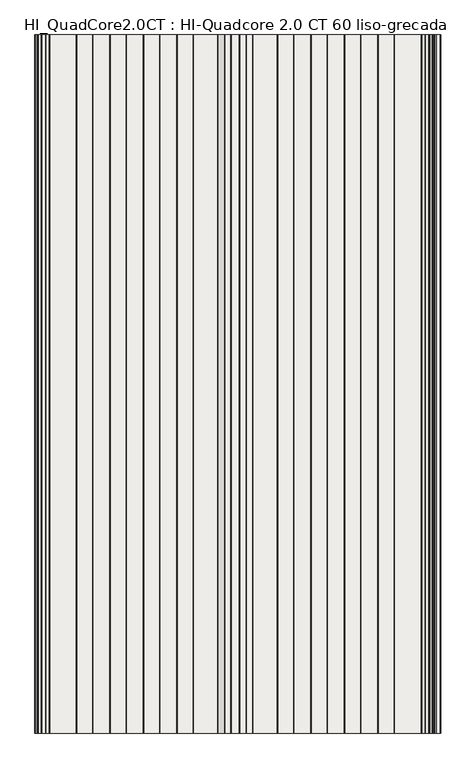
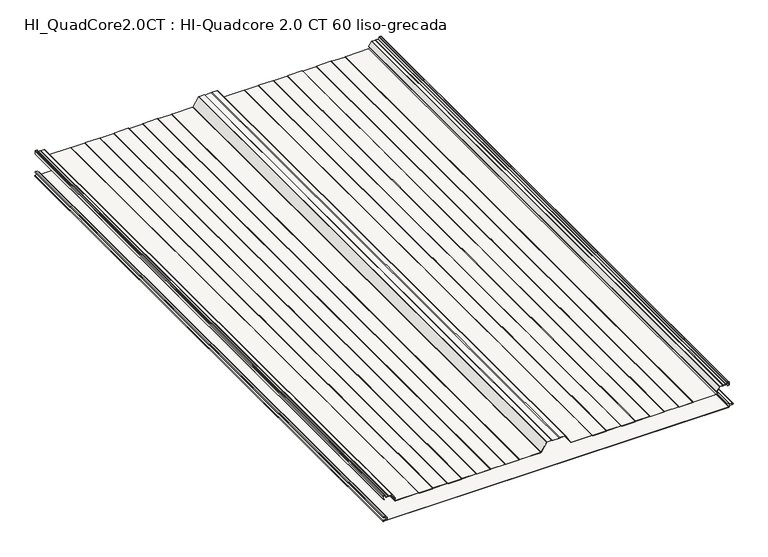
"""IFC4 building model written with IfcOpenShell, lengths in millimetres: slab geometry, HI_QuadCore2.0CT : HI-Quadcore 2.0 CT 60 liso-grecada."""

from ifc_helpers import new_model, si_unit, point, frame, frame_2d, origin, place, context, project, spatial, polyline, circle_curve, trimmed, segment, composite_curve, outline, extrude, source, transform, mapped, element, save
from ifc_brep_helpers import plane_surface, cylinder_surface, revolved_surface, advanced_brep


def hi_quadcore2_0ct_hi_quadcore_2_0_ct_60_liso_grecada_41cce4d6(model_context):
    return source(origin(), model_context, "Body", "SolidModel", [
        advanced_brep(
        [(1153.6125412, 0.0, 16.239302), (1151.6320413, 0.0, 14.2588021), (1153.3026044, 0.0, 12.2960661), (1161.7027672, 0.0, 10.9645747), (1161.6806488, 0.0, 5.2720118), (1151.7277556, 0.0, 3.7755366), (1152.0100062, 0.0, 0.0), (2297.9590685, 0.0, 0.0), (2300.1391392, 0.0, 2.1800708), (2302.6636211, 0.0, 5.0353254), (2310.9083654, 0.0, 6.0356531), (2310.9083654, 0.0, 10.2043469), (2300.9419234, 0.0, 11.413338), (2298.6324398, 0.0, 14.0237344), (2297.5187526, 0.0, 16.24), (2292.7624398, 0.0, 16.24), (2292.7624398, 0.0, 15.44), (2297.2282701, 0.0, 15.44), (2297.8324398, 0.0, 14.0237344), (2300.8450446, 0.0, 10.6192254), (2310.7843299, 0.0, 9.4135286), (2310.7843221, 0.0, 6.8264698), (2302.5664905, 0.0, 5.8294074), (2299.3391392, 0.0, 2.1800708), (2297.9590685, 0.0, 0.8), (1152.0100062, 0.0, 0.8), (1151.8467032, 0.0, 2.9844289), (1161.7995989, 0.0, 4.4809044), (1161.8278581, 0.0, 11.7547343), (1153.4279307, 0.0, 13.084535), (1152.4319301, 0.0, 14.2584682), (1153.6125693, 0.0, 15.4391074), (1157.510215, 0.0, 15.4391074), (1157.510215, 0.0, 16.239302), (1153.6125412, 2000.0, 16.239302), (1157.510215, 2000.0, 16.239302), (1157.510215, 2000.0, 15.4391074), (1153.6125693, 2000.0, 15.4391074), (1152.4319301, 2000.0, 14.2584682), (1153.4276302, 2000.0, 13.0866965), (1161.8278581, 2000.0, 11.7547343), (1161.7995989, 2000.0, 4.4809044), (1151.8467032, 2000.0, 2.9844289), (1152.0100062, 2000.0, 0.8), (2297.9590685, 2000.0, 0.8), (2299.3391392, 2000.0, 2.1800708), (2302.5664905, 2000.0, 5.8294074), (2310.7843221, 2000.0, 6.8264698), (2310.7843299, 2000.0, 9.4135286), (2300.8450446, 2000.0, 10.6192254), (2297.8324398, 2000.0, 14.0237344), (2297.2282701, 2000.0, 15.44), (2292.7624398, 2000.0, 15.44), (2292.7624398, 2000.0, 16.24), (2297.5187526, 2000.0, 16.24), (2298.6324398, 2000.0, 14.0237344), (2300.9419234, 2000.0, 11.413338), (2310.9083654, 2000.0, 10.2043469), (2310.9083654, 2000.0, 6.0356531), (2302.6636211, 2000.0, 5.0353254), (2300.1391392, 2000.0, 2.1800708), (2297.9590685, 2000.0, 0.0), (1152.0100062, 2000.0, 0.0), (1151.7277556, 2000.0, 3.7755366), (1161.6806488, 2000.0, 5.2720118), (1161.7027672, 2000.0, 10.9645747), (1153.3028397, 2000.0, 12.2943753), (1151.6320413, 2000.0, 14.2588021)],
        [
            (0, 1, circle_curve(frame((1153.6125412, 0.0, 14.2588021), z_axis=(0.0, -1.0, 0.0), x_axis=(1.0, 0.0, 0.0)), 1.9804999)),
            (1, 2, circle_curve(frame((1153.612237, 0.0, 14.2519163), z_axis=(0.0, -1.0, 0.0), x_axis=(1.0, 0.0, 0.0)), 1.9802076)),
            (2, 3),
            (3, 4, circle_curve(frame((1161.2524398, 0.0, 8.12), z_axis=(0.0, 1.0, 0.0), x_axis=(1.0, 0.0, 0.0)), 2.88)),
            (4, 5),
            (5, 6, circle_curve(frame((1152.0100062, 0.0, 1.8983185), z_axis=(0.0, -1.0, 0.0), x_axis=(1.0, 0.0, 0.0)), 1.8983185)),
            (6, 7),
            (7, 8, circle_curve(frame((2297.9590685, 0.0, 2.1800708), z_axis=(0.0, -1.0, 0.0), x_axis=(1.0, 0.0, 0.0)), 2.1800708)),
            (8, 9, circle_curve(frame((2303.0160638, 0.0, 2.1800708), z_axis=(0.0, 1.0, 0.0), x_axis=(1.0, 0.0, 0.0)), 2.8769246)),
            (9, 10),
            (10, 11, circle_curve(frame((2310.5224398, 0.0, 8.12), z_axis=(0.0, -1.0, 0.0), x_axis=(1.0, 0.0, 0.0)), 2.1197737)),
            (11, 12),
            (12, 13, circle_curve(frame((2301.2624398, 0.0, 14.0237344), z_axis=(0.0, 1.0, 0.0), x_axis=(1.0, 0.0, 0.0)), 2.63)),
            (13, 14, circle_curve(frame((2295.8703839, 0.0, 14.0237344), z_axis=(0.0, -1.0, 0.0), x_axis=(1.0, 0.0, 0.0)), 2.7620559)),
            (14, 15),
            (15, 16),
            (16, 17),
            (17, 18, circle_curve(frame((2295.8703839, 0.0, 14.0237344), z_axis=(0.0, 1.0, 0.0), x_axis=(1.0, 0.0, 0.0)), 1.9620559)),
            (18, 19, circle_curve(frame((2301.2624398, 0.0, 14.0237344), z_axis=(0.0, -1.0, 0.0), x_axis=(1.0, 0.0, 0.0)), 3.43)),
            (19, 20),
            (20, 21, circle_curve(frame((2310.5224398, 0.0, 8.12), z_axis=(0.0, 1.0, 0.0), x_axis=(1.0, 0.0, 0.0)), 1.3197737)),
            (21, 22),
            (22, 23, circle_curve(frame((2303.0160638, 0.0, 2.1800708), z_axis=(0.0, -1.0, 0.0), x_axis=(1.0, 0.0, 0.0)), 3.6769246)),
            (23, 24, circle_curve(frame((2297.9590685, 0.0, 2.1800708), z_axis=(0.0, 1.0, 0.0), x_axis=(1.0, 0.0, 0.0)), 1.3800708)),
            (24, 25),
            (25, 26, circle_curve(frame((1152.0100062, 0.0, 1.8983185), z_axis=(0.0, 1.0, 0.0), x_axis=(1.0, 0.0, 0.0)), 1.0983185)),
            (26, 27),
            (27, 28, circle_curve(frame((1161.2524398, 0.0, 8.12), z_axis=(0.0, -1.0, 0.0), x_axis=(1.0, 0.0, 0.0)), 3.68)),
            (28, 29),
            (29, 30, circle_curve(frame((1153.6121809, 0.0, 14.2524448), z_axis=(0.0, 1.0, 0.0), x_axis=(1.0, 0.0, 0.0)), 1.1802661)),
            (30, 31, circle_curve(frame((1153.6125693, 0.0, 14.2584682), z_axis=(0.0, 1.0, 0.0), x_axis=(1.0, 0.0, 0.0)), 1.1806391)),
            (31, 32),
            (32, 33),
            (33, 0),
            (34, 35),
            (35, 36),
            (36, 37),
            (37, 38, circle_curve(frame((1153.6125693, 2000.0, 14.2584682), z_axis=(0.0, -1.0, 0.0), x_axis=(1.0, 0.0, 0.0)), 1.1806391)),
            (38, 39, circle_curve(frame((1153.6121809, 2000.0, 14.2524448), z_axis=(0.0, -1.0, 0.0), x_axis=(1.0, 0.0, 0.0)), 1.1802661)),
            (39, 40),
            (40, 41, circle_curve(frame((1161.2524398, 2000.0, 8.12), z_axis=(0.0, 1.0, 0.0), x_axis=(1.0, 0.0, 0.0)), 3.68)),
            (41, 42),
            (42, 43, circle_curve(frame((1152.0100062, 2000.0, 1.8983185), z_axis=(0.0, -1.0, 0.0), x_axis=(1.0, 0.0, 0.0)), 1.0983185)),
            (43, 44),
            (44, 45, circle_curve(frame((2297.9590685, 2000.0, 2.1800708), z_axis=(0.0, -1.0, 0.0), x_axis=(1.0, 0.0, 0.0)), 1.3800708)),
            (45, 46, circle_curve(frame((2303.0160638, 2000.0, 2.1800708), z_axis=(0.0, 1.0, 0.0), x_axis=(1.0, 0.0, 0.0)), 3.6769246)),
            (46, 47),
            (47, 48, circle_curve(frame((2310.5224398, 2000.0, 8.12), z_axis=(0.0, -1.0, 0.0), x_axis=(1.0, 0.0, 0.0)), 1.3197737)),
            (48, 49),
            (49, 50, circle_curve(frame((2301.2624398, 2000.0, 14.0237344), z_axis=(0.0, 1.0, 0.0), x_axis=(1.0, 0.0, 0.0)), 3.43)),
            (50, 51, circle_curve(frame((2295.8703839, 2000.0, 14.0237344), z_axis=(0.0, -1.0, 0.0), x_axis=(1.0, 0.0, 0.0)), 1.9620559)),
            (51, 52),
            (52, 53),
            (53, 54),
            (54, 55, circle_curve(frame((2295.8703839, 2000.0, 14.0237344), z_axis=(0.0, 1.0, 0.0), x_axis=(1.0, 0.0, 0.0)), 2.7620559)),
            (55, 56, circle_curve(frame((2301.2624398, 2000.0, 14.0237344), z_axis=(0.0, -1.0, 0.0), x_axis=(1.0, 0.0, 0.0)), 2.63)),
            (56, 57),
            (57, 58, circle_curve(frame((2310.5224398, 2000.0, 8.12), z_axis=(0.0, 1.0, 0.0), x_axis=(1.0, 0.0, 0.0)), 2.1197737)),
            (58, 59),
            (59, 60, circle_curve(frame((2303.0160638, 2000.0, 2.1800708), z_axis=(0.0, -1.0, 0.0), x_axis=(1.0, 0.0, 0.0)), 2.8769246)),
            (60, 61, circle_curve(frame((2297.9590685, 2000.0, 2.1800708), z_axis=(0.0, 1.0, 0.0), x_axis=(1.0, 0.0, 0.0)), 2.1800708)),
            (61, 62),
            (62, 63, circle_curve(frame((1152.0100062, 2000.0, 1.8983185), z_axis=(0.0, 1.0, 0.0), x_axis=(1.0, 0.0, 0.0)), 1.8983185)),
            (63, 64),
            (64, 65, circle_curve(frame((1161.2524398, 2000.0, 8.12), z_axis=(0.0, -1.0, 0.0), x_axis=(1.0, 0.0, 0.0)), 2.88)),
            (65, 66),
            (66, 67, circle_curve(frame((1153.612237, 2000.0, 14.2519163), z_axis=(0.0, 1.0, 0.0), x_axis=(1.0, 0.0, 0.0)), 1.9802076)),
            (67, 34, circle_curve(frame((1153.6125412, 2000.0, 14.2588021), z_axis=(0.0, 1.0, 0.0), x_axis=(1.0, 0.0, 0.0)), 1.9804999)),
            (0, 34),
            (67, 1),
            (66, 2),
            (65, 3),
            (64, 4),
            (63, 5),
            (62, 6),
            (61, 7),
            (60, 8),
            (59, 9),
            (58, 10),
            (57, 11),
            (56, 12),
            (55, 13),
            (54, 14),
            (53, 15),
            (52, 16),
            (51, 17),
            (50, 18),
            (49, 19),
            (48, 20),
            (47, 21),
            (46, 22),
            (45, 23),
            (44, 24),
            (43, 25),
            (42, 26),
            (41, 27),
            (40, 28),
            (39, 29),
            (38, 30),
            (37, 31),
            (36, 32),
            (35, 33),
        ],
        [
            plane_surface(frame((1155.5930411, 0.0, 14.2588021), z_axis=(0.0, -1.0, 0.0), x_axis=(0.0, 0.0, 1.0))),
            plane_surface(frame((1155.5930411, 2000.0, 14.2588021), z_axis=(0.0, 1.0, 0.0), x_axis=(0.0, 0.0, -1.0))),
            cylinder_surface(frame((1153.6125412, 2000.0, 14.2588021), z_axis=(0.0, -1.0, 0.0), x_axis=(1.0, 0.0, 0.0)), 1.9804999),
            cylinder_surface(frame((1153.612237, 2000.0, 14.2519163), z_axis=(0.0, -1.0, 0.0), x_axis=(1.0, 0.0, 0.0)), 1.9802076),
            plane_surface(frame((1153.3028397, 0.0, 12.2943753), z_axis=(-0.15636367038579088, 0.0, -0.9876995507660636), x_axis=(0.0, 1.0, 0.0))),
            revolved_surface(polyline([(1164.1324398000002, 2000.0, 8.12), (1164.1324398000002, 0.0, 8.12)]), (1161.2524398, 2000.0, 8.12), (0.0, 1.0, 0.0)),
            plane_surface(frame((1161.6806488, 0.0, 5.2720118), z_axis=(-0.14868453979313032, 0.0, 0.9888846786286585), x_axis=(0.0, 1.0, 0.0))),
            cylinder_surface(frame((1152.0100062, 2000.0, 1.8983185), z_axis=(0.0, -1.0, 0.0), x_axis=(1.0, 0.0, 0.0)), 1.8983185),
            plane_surface(frame((1152.0100062, 0.0, 0.0), z_axis=(0.0, 0.0, -1.0), x_axis=(0.0, 1.0, 0.0))),
            cylinder_surface(frame((2297.9590685, 2000.0, 2.1800708), z_axis=(0.0, -1.0, 0.0), x_axis=(1.0, 0.0, 0.0)), 2.1800708),
            revolved_surface(polyline([(2305.8929884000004, 2000.0, 2.1800708), (2305.8929884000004, 0.0, 2.1800708)]), (2303.0160638, 2000.0, 2.1800708), (0.0, 1.0, 0.0)),
            plane_surface(frame((2302.6636211, 0.0, 5.0353254), z_axis=(0.12044584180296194, 0.0, -0.9927198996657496), x_axis=(0.0, 1.0, 0.0))),
            cylinder_surface(frame((2310.5224398, 2000.0, 8.12), z_axis=(0.0, -1.0, 0.0), x_axis=(1.0, 0.0, 0.0)), 2.1197737),
            plane_surface(frame((2310.9083654, 0.0, 10.2043469), z_axis=(0.12042339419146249, 0.0, 0.9927226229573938), x_axis=(0.0, 1.0, 0.0))),
            revolved_surface(polyline([(2303.8924398, 2000.0, 14.0237344), (2303.8924398, 0.0, 14.0237344)]), (2301.2624398, 2000.0, 14.0237344), (0.0, 1.0, 0.0)),
            cylinder_surface(frame((2295.8703839, 2000.0, 14.0237344), z_axis=(0.0, -1.0, 0.0), x_axis=(1.0, 0.0, 0.0)), 2.7620559),
            plane_surface(frame((2297.5187526, 0.0, 16.24), z_axis=(0.0, 0.0, 1.0), x_axis=(0.0, 1.0, 0.0))),
            plane_surface(frame((2292.7624398, 0.0, 16.24), z_axis=(-1.0, 0.0, 0.0), x_axis=(0.0, 1.0, 0.0))),
            plane_surface(frame((2292.7624398, 0.0, 15.44), z_axis=(0.0, 0.0, -1.0), x_axis=(0.0, 1.0, 0.0))),
            revolved_surface(polyline([(2297.8324398, 2000.0, 14.0237344), (2297.8324398, 0.0, 14.0237344)]), (2295.8703839, 2000.0, 14.0237344), (0.0, 1.0, 0.0)),
            cylinder_surface(frame((2301.2624398, 2000.0, 14.0237344), z_axis=(0.0, -1.0, 0.0), x_axis=(1.0, 0.0, 0.0)), 3.43),
            plane_surface(frame((2300.8450446, 0.0, 10.6192254), z_axis=(-0.12042339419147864, 0.0, -0.9927226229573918), x_axis=(0.0, 1.0, 0.0))),
            revolved_surface(polyline([(2311.8422135, 2000.0, 8.12), (2311.8422135, 0.0, 8.12)]), (2310.5224398, 2000.0, 8.12), (0.0, 1.0, 0.0)),
            plane_surface(frame((2310.7843221, 0.0, 6.8264698), z_axis=(-0.12044584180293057, 0.0, 0.9927198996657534), x_axis=(0.0, 1.0, 0.0))),
            cylinder_surface(frame((2303.0160638, 2000.0, 2.1800708), z_axis=(0.0, -1.0, 0.0), x_axis=(1.0, 0.0, 0.0)), 3.6769246),
            revolved_surface(polyline([(2299.3391392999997, 2000.0, 2.1800708), (2299.3391392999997, 0.0, 2.1800708)]), (2297.9590685, 2000.0, 2.1800708), (0.0, 1.0, 0.0)),
            plane_surface(frame((2297.9590685, 0.0, 0.8), z_axis=(0.0, 0.0, 1.0), x_axis=(0.0, 1.0, 0.0))),
            revolved_surface(polyline([(1153.1083247, 2000.0, 1.8983185), (1153.1083247, 0.0, 1.8983185)]), (1152.0100062, 2000.0, 1.8983185), (0.0, 1.0, 0.0)),
            plane_surface(frame((1151.8467032, 0.0, 2.9844289), z_axis=(0.14868453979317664, 0.0, -0.9888846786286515), x_axis=(0.0, 1.0, 0.0))),
            cylinder_surface(frame((1161.2524398, 2000.0, 8.12), z_axis=(0.0, -1.0, 0.0), x_axis=(1.0, 0.0, 0.0)), 3.68),
            plane_surface(frame((1161.8278581, 0.0, 11.7547343), z_axis=(0.15636367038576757, 0.0, 0.9876995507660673), x_axis=(0.0, 1.0, 0.0))),
            revolved_surface(polyline([(1154.792447, 2000.0, 14.2524448), (1154.792447, 0.0, 14.2524448)]), (1153.6121809, 2000.0, 14.2524448), (0.0, 1.0, 0.0)),
            revolved_surface(polyline([(1154.7932084, 2000.0, 14.2584682), (1154.7932084, 0.0, 14.2584682)]), (1153.6125693, 2000.0, 14.2584682), (0.0, 1.0, 0.0)),
            plane_surface(frame((1153.6125693, 0.0, 15.4391074), z_axis=(0.0, 0.0, -1.0), x_axis=(0.0, 1.0, 0.0))),
            plane_surface(frame((1157.510215, 0.0, 15.4391074), z_axis=(1.0, 0.0, 0.0), x_axis=(0.0, 1.0, 0.0))),
            plane_surface(frame((1157.510215, 0.0, 16.239302), z_axis=(0.0, 0.0, 1.0), x_axis=(0.0, 1.0, 0.0))),
        ],
        [
            (0, [[1, 2, 3, 4, 5, 6, 7, 8, 9, 10, 11, 12, 13, 14, 15, 16, 17, 18, 19, 20, 21, 22, 23, 24, 25, 26, 27, 28, 29, 30, 31, 32, 33, 34]]),
            (1, [[35, 36, 37, 38, 39, 40, 41, 42, 43, 44, 45, 46, 47, 48, 49, 50, 51, 52, 53, 54, 55, 56, 57, 58, 59, 60, 61, 62, 63, 64, 65, 66, 67, 68]]),
            (2, [[-1, 69, -68, 70]]),
            (3, [[-2, -70, -67, 71]]),
            (4, [[-3, -71, -66, 72]]),
            (5, [[-4, -72, -65, 73]]),
            (6, [[-5, -73, -64, 74]]),
            (7, [[-6, -74, -63, 75]]),
            (8, [[-7, -75, -62, 76]]),
            (9, [[-8, -76, -61, 77]]),
            (10, [[-9, -77, -60, 78]]),
            (11, [[-10, -78, -59, 79]]),
            (12, [[-11, -79, -58, 80]]),
            (13, [[-12, -80, -57, 81]]),
            (14, [[-13, -81, -56, 82]]),
            (15, [[-14, -82, -55, 83]]),
            (16, [[-15, -83, -54, 84]]),
            (17, [[-16, -84, -53, 85]]),
            (18, [[-17, -85, -52, 86]]),
            (19, [[-18, -86, -51, 87]]),
            (20, [[-19, -87, -50, 88]]),
            (21, [[-20, -88, -49, 89]]),
            (22, [[-21, -89, -48, 90]]),
            (23, [[-22, -90, -47, 91]]),
            (24, [[-23, -91, -46, 92]]),
            (25, [[-24, -92, -45, 93]]),
            (26, [[-25, -93, -44, 94]]),
            (27, [[-26, -94, -43, 95]]),
            (28, [[-27, -95, -42, 96]]),
            (29, [[-28, -96, -41, 97]]),
            (30, [[-29, -97, -40, 98]]),
            (31, [[-30, -98, -39, 99]]),
            (32, [[-31, -99, -38, 100]]),
            (33, [[-32, -100, -37, 101]]),
            (34, [[-33, -101, -36, 102]]),
            (35, [[-34, -102, -35, -69]]),
        ],
    ),
        extrude(outline(composite_curve([segment(polyline([(77.9163804, 1151.3824194), (75.7425833, 1155.1475465), (76.4354036, 1155.5475465), (78.6669358, 1151.6824194), (88.1, 1151.6824194)]), True, "CONTINUOUS"), segment(trimmed(circle_curve(frame_2d((88.1, 1152.7824194)), 1.1), [point((88.1, 1151.6824194))], [point((89.2, 1152.7824194))], True, "CARTESIAN"), True, "CONTINUOUS"), segment(polyline([(89.2, 1152.7824194), (89.2, 1156.3760168)]), True, "CONTINUOUS"), segment(trimmed(circle_curve(frame_2d((88.1, 1156.3760168)), 1.1), [point((89.2, 1156.3760168))], [point((88.5209518, 1157.3922843))], True, "CARTESIAN"), True, "CONTINUOUS"), segment(polyline([(88.5209518, 1157.3922843), (84.0383476, 1159.2490397)]), True, "CONTINUOUS"), segment(trimmed(circle_curve(frame_2d((84.93, 1161.4016791)), 2.33), [point((84.0383476, 1159.2490397))], [point((82.6, 1161.4016791))], False, "CARTESIAN"), True, "CONTINUOUS"), segment(polyline([(82.6, 1161.4016791), (82.6, 1168.1276514), (81.8110374, 1169.8324194), (82.6, 1171.5371875), (82.6, 1180.8643848)]), True, "CONTINUOUS"), segment(trimmed(circle_curve(frame_2d((81.5, 1180.8643848)), 1.1), [point((82.6, 1180.8643848))], [point((82.1230469, 1181.7709236))], True, "CARTESIAN"), True, "CONTINUOUS"), segment(polyline([(82.1230469, 1181.7709236), (68.5361221, 1191.1089583)]), True, "CONTINUOUS"), segment(trimmed(circle_curve(frame_2d((67.9130752, 1190.2024195)), 1.1), [point((68.5361221, 1191.1089583))], [point((67.0692788, 1190.9081159))], True, "CARTESIAN"), True, "CONTINUOUS"), segment(polyline([(67.0692788, 1190.9081159), (66.2744555, 1189.9577511)]), True, "CONTINUOUS"), segment(trimmed(circle_curve(frame_2d((63.3, 1192.7795617)), 4.1), [point((66.2744555, 1189.9577511))], [point((59.2, 1192.7795617))], False, "CARTESIAN"), True, "CONTINUOUS"), segment(polyline([(59.2, 1192.7795617), (59.2, 1268.8832267), (58.2, 1270.6152775), (58.2, 1315.6495614), (59.2, 1317.3816122), (59.2, 1364.8832267), (58.2, 1366.6152775), (58.2, 1411.6495614), (59.2, 1413.3816122), (59.2, 1460.8832267), (58.2, 1462.6152775), (58.2, 1507.6495614), (59.2, 1509.3816122), (59.2, 1556.8832267), (58.2, 1558.6152775), (58.2, 1603.6495614), (59.2, 1605.3816122), (59.2, 1674.3619266)]), True, "CONTINUOUS"), segment(trimmed(circle_curve(frame_2d((61.53, 1674.3619266)), 2.33), [point((59.2, 1674.3619266))], [point((60.2833287, 1676.330355))], False, "CARTESIAN"), True, "CONTINUOUS"), segment(polyline([(60.2833287, 1676.330355), (88.6885573, 1694.3203331)]), True, "CONTINUOUS"), segment(trimmed(circle_curve(frame_2d((88.1, 1695.2496341)), 1.1), [point((88.6885573, 1694.3203331))], [point((89.2, 1695.2496341))], True, "CARTESIAN"), True, "CONTINUOUS"), segment(polyline([(89.2, 1695.2496341), (89.2, 1711.3832267), (87.7, 1713.9813029), (87.7, 1736.283536), (89.2, 1738.8816122), (89.2, 1755.0152048)]), True, "CONTINUOUS"), segment(trimmed(circle_curve(frame_2d((88.1, 1755.0152048)), 1.1), [point((89.2, 1755.0152048))], [point((88.6885573, 1755.9445057))], True, "CARTESIAN"), True, "CONTINUOUS"), segment(polyline([(88.6885573, 1755.9445057), (60.2833287, 1773.9344839)]), True, "CONTINUOUS"), segment(trimmed(circle_curve(frame_2d((61.53, 1775.9029123)), 2.33), [point((60.2833287, 1773.9344839))], [point((59.2, 1775.9029123))], False, "CARTESIAN"), True, "CONTINUOUS"), segment(polyline([(59.2, 1775.9029123), (59.2, 1844.8832267), (58.2, 1846.6152775), (58.2, 1891.6495614), (59.2, 1893.3816122), (59.2, 1940.8832267), (58.2, 1942.6152775), (58.2, 1987.6495614), (59.2, 1989.3816122), (59.2, 2036.8832267), (58.2, 2038.6152775), (58.2, 2083.6495614), (59.2, 2085.3816122), (59.2, 2132.8832267), (58.2, 2134.6152775), (58.2, 2179.6495614), (59.2, 2181.3816122), (59.2, 2257.4852773)]), True, "CONTINUOUS"), segment(trimmed(circle_curve(frame_2d((63.3, 2257.4852773)), 4.1), [point((59.2, 2257.4852773))], [point((66.2744554, 2260.3070878))], False, "CARTESIAN"), True, "CONTINUOUS"), segment(polyline([(66.2744554, 2260.3070878), (67.0692788, 2259.356723)]), True, "CONTINUOUS"), segment(trimmed(circle_curve(frame_2d((67.9130753, 2260.0624194)), 1.1), [point((67.0692788, 2259.356723))], [point((68.5361221, 2259.1558806))], True, "CARTESIAN"), True, "CONTINUOUS"), segment(polyline([(68.5361221, 2259.1558806), (82.1230469, 2268.4939153)]), True, "CONTINUOUS"), segment(trimmed(circle_curve(frame_2d((81.5, 2269.4004541)), 1.1), [point((82.1230469, 2268.4939153))], [point((82.6, 2269.4004541))], True, "CARTESIAN"), True, "CONTINUOUS"), segment(polyline([(82.6, 2269.4004541), (82.6, 2278.7276514), (81.8110374, 2280.4324194), (82.6, 2282.1371875), (82.6, 2288.8631598)]), True, "CONTINUOUS"), segment(trimmed(circle_curve(frame_2d((84.93, 2288.8631598)), 2.33), [point((82.6, 2288.8631598))], [point((84.0383476, 2291.0157992))], False, "CARTESIAN"), True, "CONTINUOUS"), segment(polyline([(84.0383476, 2291.0157992), (88.5209518, 2292.8725546)]), True, "CONTINUOUS"), segment(trimmed(circle_curve(frame_2d((88.1, 2293.8888221)), 1.1), [point((88.5209518, 2292.8725546))], [point((89.2, 2293.8888221))], True, "CARTESIAN"), True, "CONTINUOUS"), segment(polyline([(89.2, 2293.8888221), (89.2, 2297.4824194)]), True, "CONTINUOUS"), segment(trimmed(circle_curve(frame_2d((88.1, 2297.4824194)), 1.1), [point((89.2, 2297.4824194))], [point((88.1, 2298.5824194))], True, "CARTESIAN"), True, "CONTINUOUS"), segment(polyline([(88.1, 2298.5824194), (78.6669358, 2298.5824194), (76.4354036, 2294.7172924), (75.7425833, 2295.1172924), (77.9163804, 2298.8824194)]), True, "CONTINUOUS"), segment(trimmed(circle_curve(frame_2d((78.7824058, 2298.3824194)), 1.0), [point((77.9163804, 2298.8824194))], [point((78.7824058, 2299.3824194))], False, "CARTESIAN"), True, "CONTINUOUS"), segment(polyline([(78.7824058, 2299.3824194), (88.1, 2299.3824194)]), True, "CONTINUOUS"), segment(trimmed(circle_curve(frame_2d((88.1, 2297.4824194)), 1.9), [point((88.1, 2299.3824194))], [point((90.0, 2297.4824194))], False, "CARTESIAN"), True, "CONTINUOUS"), segment(polyline([(90.0, 2297.4824194), (90.0, 2293.8888221)]), True, "CONTINUOUS"), segment(trimmed(circle_curve(frame_2d((88.1, 2293.8888221)), 1.9), [point((90.0, 2293.8888221))], [point((88.8270985, 2292.133451))], False, "CARTESIAN"), True, "CONTINUOUS"), segment(polyline([(88.8270985, 2292.133451), (84.3444944, 2290.2766955)]), True, "CONTINUOUS"), segment(trimmed(circle_curve(frame_2d((84.93, 2288.8631598)), 1.53), [point((84.3444944, 2290.2766955))], [point((83.4, 2288.8631598))], True, "CARTESIAN"), True, "CONTINUOUS"), segment(polyline([(83.4, 2288.8631598), (83.4, 2281.9610429), (82.6925567, 2280.4324194), (83.4, 2278.903796), (83.4, 2269.4004541)]), True, "CONTINUOUS"), segment(trimmed(circle_curve(frame_2d((81.5, 2269.4004541)), 1.9), [point((83.4, 2269.4004541))], [point((82.5761719, 2267.8346144))], False, "CARTESIAN"), True, "CONTINUOUS"), segment(polyline([(82.5761719, 2267.8346144), (68.9892471, 2258.4965797)]), True, "CONTINUOUS"), segment(trimmed(circle_curve(frame_2d((67.9130753, 2260.0624194)), 1.9), [point((68.9892471, 2258.4965797))], [point((66.4556086, 2258.8434892))], False, "CARTESIAN"), True, "CONTINUOUS"), segment(polyline([(66.4556086, 2258.8434892), (65.6777166, 2259.7736094)]), True, "CONTINUOUS"), segment(trimmed(circle_curve(frame_2d((63.3, 2257.4852773)), 3.3), [point((65.6777166, 2259.7736094))], [point((60.0, 2257.4852773))], True, "CARTESIAN"), True, "CONTINUOUS"), segment(polyline([(60.0, 2257.4852773), (60.0, 2181.5691766)]), True, "CONTINUOUS"), segment(trimmed(circle_curve(frame_2d((58.5, 2181.5691766)), 1.5), [point((60.0, 2181.5691766))], [point((59.7990381, 2180.8191766))], False, "CARTESIAN"), True, "CONTINUOUS"), segment(polyline([(59.7990381, 2180.8191766), (59.0, 2179.435202), (59.0, 2134.8296369), (59.7990381, 2133.4456623)]), True, "CONTINUOUS"), segment(trimmed(circle_curve(frame_2d((58.5, 2132.6956623)), 1.5), [point((59.7990381, 2133.4456623))], [point((60.0, 2132.6956623))], False, "CARTESIAN"), True, "CONTINUOUS"), segment(polyline([(60.0, 2132.6956623), (60.0, 2085.5691766)]), True, "CONTINUOUS"), segment(trimmed(circle_curve(frame_2d((58.5, 2085.5691766)), 1.5), [point((60.0, 2085.5691766))], [point((59.7990381, 2084.8191766))], False, "CARTESIAN"), True, "CONTINUOUS"), segment(polyline([(59.7990381, 2084.8191766), (59.0, 2083.435202), (59.0, 2038.8296369), (59.7990381, 2037.4456623)]), True, "CONTINUOUS"), segment(trimmed(circle_curve(frame_2d((58.5, 2036.6956623)), 1.5), [point((59.7990381, 2037.4456623))], [point((60.0, 2036.6956623))], False, "CARTESIAN"), True, "CONTINUOUS"), segment(polyline([(60.0, 2036.6956623), (60.0, 1989.5691766)]), True, "CONTINUOUS"), segment(trimmed(circle_curve(frame_2d((58.5, 1989.5691766)), 1.5), [point((60.0, 1989.5691766))], [point((59.7990381, 1988.8191766))], False, "CARTESIAN"), True, "CONTINUOUS"), segment(polyline([(59.7990381, 1988.8191766), (59.0, 1987.435202), (59.0, 1942.8296369), (59.7990381, 1941.4456623)]), True, "CONTINUOUS"), segment(trimmed(circle_curve(frame_2d((58.5, 1940.6956623)), 1.5), [point((59.7990381, 1941.4456623))], [point((60.0, 1940.6956623))], False, "CARTESIAN"), True, "CONTINUOUS"), segment(polyline([(60.0, 1940.6956623), (60.0, 1893.5691766)]), True, "CONTINUOUS"), segment(trimmed(circle_curve(frame_2d((58.5, 1893.5691766)), 1.5), [point((60.0, 1893.5691766))], [point((59.7990381, 1892.8191766))], False, "CARTESIAN"), True, "CONTINUOUS"), segment(polyline([(59.7990381, 1892.8191766), (59.0, 1891.435202), (59.0, 1846.8296369), (59.7990381, 1845.4456623)]), True, "CONTINUOUS"), segment(trimmed(circle_curve(frame_2d((58.5, 1844.6956623)), 1.5), [point((59.7990381, 1845.4456623))], [point((60.0, 1844.6956623))], False, "CARTESIAN"), True, "CONTINUOUS"), segment(polyline([(60.0, 1844.6956623), (60.0, 1775.9029123)]), True, "CONTINUOUS"), segment(trimmed(circle_curve(frame_2d((61.53, 1775.9029123)), 1.53), [point((60.0, 1775.9029123))], [point((60.7113703, 1774.6103391))], True, "CARTESIAN"), True, "CONTINUOUS"), segment(polyline([(60.7113703, 1774.6103391), (89.116599, 1756.620361)]), True, "CONTINUOUS"), segment(trimmed(circle_curve(frame_2d((88.1, 1755.0152048)), 1.9), [point((89.116599, 1756.620361))], [point((90.0, 1755.0152048))], False, "CARTESIAN"), True, "CONTINUOUS"), segment(polyline([(90.0, 1755.0152048), (90.0, 1738.6672528), (88.5, 1736.0691766), (88.5, 1714.1956623), (90.0, 1711.5975861), (90.0, 1695.2496341)]), True, "CONTINUOUS"), segment(trimmed(circle_curve(frame_2d((88.1, 1695.2496341)), 1.9), [point((90.0, 1695.2496341))], [point((89.116599, 1693.6444779))], False, "CARTESIAN"), True, "CONTINUOUS"), segment(polyline([(89.116599, 1693.6444779), (60.7113703, 1675.6544998)]), True, "CONTINUOUS"), segment(trimmed(circle_curve(frame_2d((61.53, 1674.3619266)), 1.53), [point((60.7113703, 1675.6544998))], [point((60.0, 1674.3619266))], True, "CARTESIAN"), True, "CONTINUOUS"), segment(polyline([(60.0, 1674.3619266), (60.0, 1605.5691766)]), True, "CONTINUOUS"), segment(trimmed(circle_curve(frame_2d((58.5, 1605.5691766)), 1.5), [point((60.0, 1605.5691766))], [point((59.7990381, 1604.8191766))], False, "CARTESIAN"), True, "CONTINUOUS"), segment(polyline([(59.7990381, 1604.8191766), (59.0, 1603.435202), (59.0, 1558.8296369), (59.7990381, 1557.4456623)]), True, "CONTINUOUS"), segment(trimmed(circle_curve(frame_2d((58.5, 1556.6956623)), 1.5), [point((59.7990381, 1557.4456623))], [point((60.0, 1556.6956623))], False, "CARTESIAN"), True, "CONTINUOUS"), segment(polyline([(60.0, 1556.6956623), (60.0, 1509.5691766)]), True, "CONTINUOUS"), segment(trimmed(circle_curve(frame_2d((58.5, 1509.5691766)), 1.5), [point((60.0, 1509.5691766))], [point((59.7990381, 1508.8191766))], False, "CARTESIAN"), True, "CONTINUOUS"), segment(polyline([(59.7990381, 1508.8191766), (59.0, 1507.435202), (59.0, 1462.8296369), (59.7990381, 1461.4456623)]), True, "CONTINUOUS"), segment(trimmed(circle_curve(frame_2d((58.5, 1460.6956623)), 1.5), [point((59.7990381, 1461.4456623))], [point((60.0, 1460.6956623))], False, "CARTESIAN"), True, "CONTINUOUS"), segment(polyline([(60.0, 1460.6956623), (60.0, 1413.5691766)]), True, "CONTINUOUS"), segment(trimmed(circle_curve(frame_2d((58.5, 1413.5691766)), 1.5), [point((60.0, 1413.5691766))], [point((59.7990381, 1412.8191766))], False, "CARTESIAN"), True, "CONTINUOUS"), segment(polyline([(59.7990381, 1412.8191766), (59.0, 1411.435202), (59.0, 1366.8296369), (59.7990381, 1365.4456623)]), True, "CONTINUOUS"), segment(trimmed(circle_curve(frame_2d((58.5, 1364.6956623)), 1.5), [point((59.7990381, 1365.4456623))], [point((60.0, 1364.6956623))], False, "CARTESIAN"), True, "CONTINUOUS"), segment(polyline([(60.0, 1364.6956623), (60.0, 1317.5691766)]), True, "CONTINUOUS"), segment(trimmed(circle_curve(frame_2d((58.5, 1317.5691766)), 1.5), [point((60.0, 1317.5691766))], [point((59.7990381, 1316.8191766))], False, "CARTESIAN"), True, "CONTINUOUS"), segment(polyline([(59.7990381, 1316.8191766), (59.0, 1315.435202), (59.0, 1270.8296369), (59.7990381, 1269.4456623)]), True, "CONTINUOUS"), segment(trimmed(circle_curve(frame_2d((58.5, 1268.6956623)), 1.5), [point((59.7990381, 1269.4456623))], [point((60.0, 1268.6956623))], False, "CARTESIAN"), True, "CONTINUOUS"), segment(polyline([(60.0, 1268.6956623), (60.0, 1192.7795617)]), True, "CONTINUOUS"), segment(trimmed(circle_curve(frame_2d((63.3, 1192.7795617)), 3.3), [point((60.0, 1192.7795617))], [point((65.6777166, 1190.4912296))], True, "CARTESIAN"), True, "CONTINUOUS"), segment(polyline([(65.6777166, 1190.4912296), (66.4556086, 1191.4213497)]), True, "CONTINUOUS"), segment(trimmed(circle_curve(frame_2d((67.9130752, 1190.2024195)), 1.9), [point((66.4556086, 1191.4213497))], [point((68.9892471, 1191.7682592))], False, "CARTESIAN"), True, "CONTINUOUS"), segment(polyline([(68.9892471, 1191.7682592), (82.5761719, 1182.4302246)]), True, "CONTINUOUS"), segment(trimmed(circle_curve(frame_2d((81.5, 1180.8643848)), 1.9), [point((82.5761719, 1182.4302246))], [point((83.4, 1180.8643848))], False, "CARTESIAN"), True, "CONTINUOUS"), segment(polyline([(83.4, 1180.8643848), (83.4, 1171.3610429), (82.6925567, 1169.8324194), (83.4, 1168.303796), (83.4, 1161.4016791)]), True, "CONTINUOUS"), segment(trimmed(circle_curve(frame_2d((84.93, 1161.4016791)), 1.53), [point((83.4, 1161.4016791))], [point((84.3444944, 1159.9881434))], True, "CARTESIAN"), True, "CONTINUOUS"), segment(polyline([(84.3444944, 1159.9881434), (88.8270985, 1158.1313879)]), True, "CONTINUOUS"), segment(trimmed(circle_curve(frame_2d((88.1, 1156.3760168)), 1.9), [point((88.8270985, 1158.1313879))], [point((90.0, 1156.3760168))], False, "CARTESIAN"), True, "CONTINUOUS"), segment(polyline([(90.0, 1156.3760168), (90.0, 1152.7824194)]), True, "CONTINUOUS"), segment(trimmed(circle_curve(frame_2d((88.1, 1152.7824194)), 1.9), [point((90.0, 1152.7824194))], [point((88.1, 1150.8824194))], False, "CARTESIAN"), True, "CONTINUOUS"), segment(polyline([(88.1, 1150.8824194), (78.7824058, 1150.8824194)]), True, "CONTINUOUS"), segment(trimmed(circle_curve(frame_2d((78.7824058, 1151.8824194)), 1.0), [point((78.7824058, 1150.8824194))], [point((77.9163804, 1151.3824194))], False, "CARTESIAN"), True, "CONTINUOUS")], self_intersect=False)), frame((0.0, 0.0, 0.0), z_axis=(0.0, 1.0, 0.0), x_axis=(0.0, 0.0, 1.0)), (0.0, 0.0, 1.0), 2000.0),
    ])


if __name__ == "__main__":
    model = new_model("IFC4")
    model_context = context("Model", 3, world=origin())
    ifc_project = project(units=[si_unit("LENGTHUNIT", "METRE", prefix="MILLI")], contexts=[model_context])
    site = spatial("IfcSite", under=ifc_project)
    building = spatial("IfcBuilding", under=site)
    placement = place(None, origin())
    hi_quadcore2_0ct_hi_quadcore_2_0_ct_60_liso_grecada_shape = hi_quadcore2_0ct_hi_quadcore_2_0_ct_60_liso_grecada_41cce4d6(model_context)
    element("IfcSlab", 1, ObjectType="HI_QuadCore2.0CT : HI-Quadcore 2.0 CT 60 liso-grecada", at=placement, inside=building, context=model_context, shape_type="MappedRepresentation", body=[
        mapped(hi_quadcore2_0ct_hi_quadcore_2_0_ct_60_liso_grecada_shape, transform((0.0, 0.0, 0.0), x_axis=(1.0, 0.0, 0.0), y_axis=(0.0, 1.0, 0.0), z_axis=(0.0, 0.0, 1.0))),
    ])
    save(model, "model.ifc")
